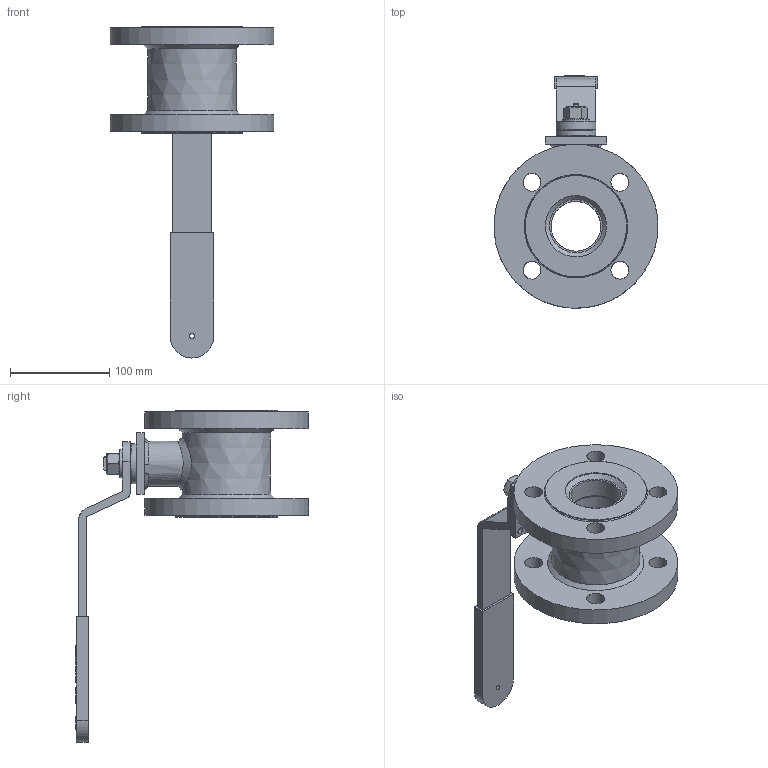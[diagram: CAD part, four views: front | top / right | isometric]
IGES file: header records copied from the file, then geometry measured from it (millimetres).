
Global section: file name: 50.21k.000.B1-10-16.00; native system: Autodesk Inventor 2015; preprocessor: unknown; author: pdrozdzowski; date: 20171031.081836; units: centimetre
Bounding box: 164.88 x 234.45 x 334 mm (x, y, z)
Volume: 1081114 mm3; surface area: 233913.7 mm2
Topology: 1 solids, 10 shells, 588 faces, 1571 edges, 1043 vertices
Faces by surface type: bspline 588
